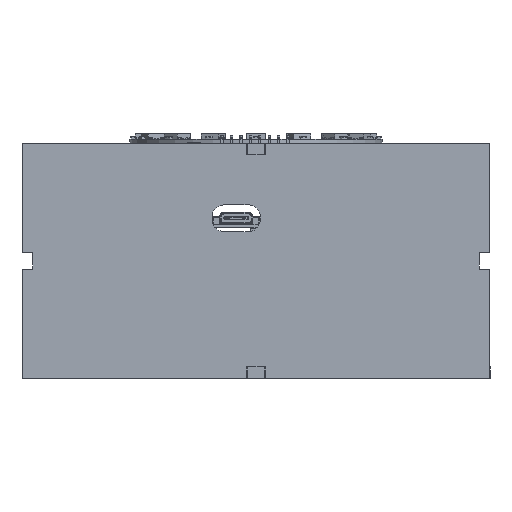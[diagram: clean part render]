
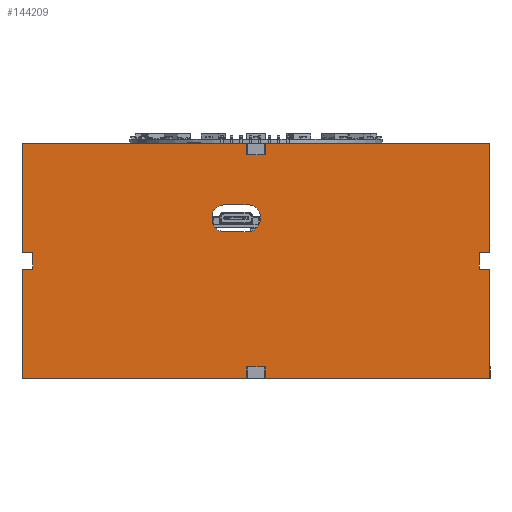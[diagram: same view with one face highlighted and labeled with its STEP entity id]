
A CAD part, left-side view. The second image highlights one B-rep face of the part: STEP entity #144209.
In plain terms, the highlighted planar face has unit normal (-1, 0, 0).
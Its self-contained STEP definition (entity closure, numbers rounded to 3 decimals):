
#7146=FACE_BOUND('',#26496,.T.);
#10637=PLANE('',#154101);
#18187=FACE_OUTER_BOUND('',#26495,.T.);
#26495=EDGE_LOOP('',(#118530,#118531,#118532,#118533,#118534,#118535,#118536,
#118537,#118538,#118539,#118540,#118541,#118542,#118543,#118544,#118545,
#118546,#118547,#118548,#118549));
#26496=EDGE_LOOP('',(#118550,#118551,#118552,#118553,#118554,#118555,#118556,
#118557));
#39323=LINE('',#226450,#54594);
#39327=LINE('',#226459,#54598);
#39329=LINE('',#226464,#54600);
#39334=LINE('',#226478,#54605);
#39338=LINE('',#226490,#54609);
#39342=LINE('',#226502,#54613);
#39347=LINE('',#226516,#54618);
#39350=LINE('',#226522,#54621);
#39353=LINE('',#226528,#54624);
#39356=LINE('',#226534,#54627);
#39359=LINE('',#226540,#54630);
#39362=LINE('',#226544,#54633);
#39363=LINE('',#226546,#54634);
#39366=LINE('',#226552,#54637);
#39369=LINE('',#226558,#54640);
#39372=LINE('',#226564,#54643);
#39375=LINE('',#226570,#54646);
#39378=LINE('',#226576,#54649);
#39381=LINE('',#226582,#54652);
#39384=LINE('',#226588,#54655);
#39387=LINE('',#226594,#54658);
#39390=LINE('',#226600,#54661);
#39393=LINE('',#226606,#54664);
#39396=LINE('',#226610,#54667);
#54594=VECTOR('',#176115,10.);
#54598=VECTOR('',#176121,10.);
#54600=VECTOR('',#176125,10.);
#54605=VECTOR('',#176138,10.);
#54609=VECTOR('',#176150,10.);
#54613=VECTOR('',#176162,10.);
#54618=VECTOR('',#176175,10.);
#54621=VECTOR('',#176180,10.);
#54624=VECTOR('',#176185,10.);
#54627=VECTOR('',#176190,10.);
#54630=VECTOR('',#176195,10.);
#54633=VECTOR('',#176200,10.);
#54634=VECTOR('',#176203,10.);
#54637=VECTOR('',#176208,10.);
#54640=VECTOR('',#176213,10.);
#54643=VECTOR('',#176218,10.);
#54646=VECTOR('',#176223,10.);
#54649=VECTOR('',#176228,10.);
#54652=VECTOR('',#176233,10.);
#54655=VECTOR('',#176238,10.);
#54658=VECTOR('',#176243,10.);
#54661=VECTOR('',#176248,10.);
#54664=VECTOR('',#176253,10.);
#54667=VECTOR('',#176258,10.);
#62422=CIRCLE('',#154069,3.25);
#62424=CIRCLE('',#154073,3.25);
#62426=CIRCLE('',#154077,3.25);
#62428=CIRCLE('',#154081,3.25);
#69878=VERTEX_POINT('',#226447);
#69879=VERTEX_POINT('',#226449);
#69882=VERTEX_POINT('',#226456);
#69883=VERTEX_POINT('',#226458);
#69884=VERTEX_POINT('',#226462);
#69885=VERTEX_POINT('',#226463);
#69888=VERTEX_POINT('',#226471);
#69890=VERTEX_POINT('',#226477);
#69892=VERTEX_POINT('',#226483);
#69894=VERTEX_POINT('',#226489);
#69896=VERTEX_POINT('',#226495);
#69898=VERTEX_POINT('',#226501);
#69902=VERTEX_POINT('',#226513);
#69903=VERTEX_POINT('',#226515);
#69905=VERTEX_POINT('',#226521);
#69907=VERTEX_POINT('',#226527);
#69909=VERTEX_POINT('',#226533);
#69911=VERTEX_POINT('',#226539);
#69913=VERTEX_POINT('',#226551);
#69915=VERTEX_POINT('',#226557);
#69917=VERTEX_POINT('',#226563);
#69919=VERTEX_POINT('',#226569);
#69921=VERTEX_POINT('',#226575);
#69923=VERTEX_POINT('',#226581);
#69925=VERTEX_POINT('',#226587);
#69927=VERTEX_POINT('',#226593);
#69929=VERTEX_POINT('',#226599);
#69931=VERTEX_POINT('',#226605);
#87217=EDGE_CURVE('',#69879,#69878,#39323,.T.);
#87221=EDGE_CURVE('',#69883,#69882,#39327,.T.);
#87223=EDGE_CURVE('',#69884,#69885,#39329,.T.);
#87227=EDGE_CURVE('',#69885,#69888,#62422,.T.);
#87230=EDGE_CURVE('',#69888,#69890,#39334,.T.);
#87233=EDGE_CURVE('',#69890,#69892,#62424,.T.);
#87236=EDGE_CURVE('',#69892,#69894,#39338,.T.);
#87239=EDGE_CURVE('',#69894,#69896,#62426,.T.);
#87242=EDGE_CURVE('',#69896,#69898,#39342,.T.);
#87245=EDGE_CURVE('',#69898,#69884,#62428,.T.);
#87249=EDGE_CURVE('',#69903,#69902,#39347,.T.);
#87252=EDGE_CURVE('',#69905,#69903,#39350,.T.);
#87255=EDGE_CURVE('',#69907,#69905,#39353,.T.);
#87258=EDGE_CURVE('',#69909,#69907,#39356,.T.);
#87261=EDGE_CURVE('',#69911,#69909,#39359,.T.);
#87264=EDGE_CURVE('',#69878,#69911,#39362,.T.);
#87265=EDGE_CURVE('',#69882,#69879,#39363,.T.);
#87268=EDGE_CURVE('',#69913,#69883,#39366,.T.);
#87271=EDGE_CURVE('',#69915,#69913,#39369,.T.);
#87274=EDGE_CURVE('',#69917,#69915,#39372,.T.);
#87277=EDGE_CURVE('',#69919,#69917,#39375,.T.);
#87280=EDGE_CURVE('',#69921,#69919,#39378,.T.);
#87283=EDGE_CURVE('',#69923,#69921,#39381,.T.);
#87286=EDGE_CURVE('',#69925,#69923,#39384,.T.);
#87289=EDGE_CURVE('',#69927,#69925,#39387,.T.);
#87292=EDGE_CURVE('',#69929,#69927,#39390,.T.);
#87295=EDGE_CURVE('',#69931,#69929,#39393,.T.);
#87298=EDGE_CURVE('',#69902,#69931,#39396,.T.);
#118530=ORIENTED_EDGE('',*,*,#87298,.T.);
#118531=ORIENTED_EDGE('',*,*,#87295,.T.);
#118532=ORIENTED_EDGE('',*,*,#87292,.T.);
#118533=ORIENTED_EDGE('',*,*,#87289,.T.);
#118534=ORIENTED_EDGE('',*,*,#87286,.T.);
#118535=ORIENTED_EDGE('',*,*,#87283,.T.);
#118536=ORIENTED_EDGE('',*,*,#87280,.T.);
#118537=ORIENTED_EDGE('',*,*,#87277,.T.);
#118538=ORIENTED_EDGE('',*,*,#87274,.T.);
#118539=ORIENTED_EDGE('',*,*,#87271,.T.);
#118540=ORIENTED_EDGE('',*,*,#87268,.T.);
#118541=ORIENTED_EDGE('',*,*,#87221,.T.);
#118542=ORIENTED_EDGE('',*,*,#87265,.T.);
#118543=ORIENTED_EDGE('',*,*,#87217,.T.);
#118544=ORIENTED_EDGE('',*,*,#87264,.T.);
#118545=ORIENTED_EDGE('',*,*,#87261,.T.);
#118546=ORIENTED_EDGE('',*,*,#87258,.T.);
#118547=ORIENTED_EDGE('',*,*,#87255,.T.);
#118548=ORIENTED_EDGE('',*,*,#87252,.T.);
#118549=ORIENTED_EDGE('',*,*,#87249,.T.);
#118550=ORIENTED_EDGE('',*,*,#87236,.T.);
#118551=ORIENTED_EDGE('',*,*,#87239,.T.);
#118552=ORIENTED_EDGE('',*,*,#87242,.T.);
#118553=ORIENTED_EDGE('',*,*,#87245,.T.);
#118554=ORIENTED_EDGE('',*,*,#87223,.T.);
#118555=ORIENTED_EDGE('',*,*,#87227,.T.);
#118556=ORIENTED_EDGE('',*,*,#87230,.T.);
#118557=ORIENTED_EDGE('',*,*,#87233,.T.);
#144209=ADVANCED_FACE('',(#18187,#7146),#10637,.T.);
#154069=AXIS2_PLACEMENT_3D('',#226472,#176131,#176132);
#154073=AXIS2_PLACEMENT_3D('',#226484,#176143,#176144);
#154077=AXIS2_PLACEMENT_3D('',#226496,#176155,#176156);
#154081=AXIS2_PLACEMENT_3D('',#226507,#176167,#176168);
#154101=AXIS2_PLACEMENT_3D('',#226611,#176259,#176260);
#176115=DIRECTION('',(0.,0.,1.));
#176121=DIRECTION('',(0.,0.,-1.));
#176125=DIRECTION('',(0.,0.,1.));
#176131=DIRECTION('center_axis',(1.,0.,0.));
#176132=DIRECTION('ref_axis',(0.,1.,0.));
#176138=DIRECTION('',(0.,-1.,0.));
#176143=DIRECTION('center_axis',(1.,0.,0.));
#176144=DIRECTION('ref_axis',(0.,0.,1.));
#176150=DIRECTION('',(0.,0.,-1.));
#176155=DIRECTION('center_axis',(1.,0.,0.));
#176156=DIRECTION('ref_axis',(0.,-1.,0.));
#176162=DIRECTION('',(0.,1.,0.));
#176167=DIRECTION('center_axis',(1.,0.,0.));
#176168=DIRECTION('ref_axis',(0.,0.,-1.));
#176175=DIRECTION('',(0.,0.,-1.));
#176180=DIRECTION('',(0.,1.,0.));
#176185=DIRECTION('',(0.,0.,-1.));
#176190=DIRECTION('',(0.,-1.,0.));
#176195=DIRECTION('',(0.,0.,-1.));
#176200=DIRECTION('',(0.,1.,0.));
#176203=DIRECTION('',(0.,1.,0.));
#176208=DIRECTION('',(0.,1.,0.));
#176213=DIRECTION('',(0.,0.,1.));
#176218=DIRECTION('',(0.,-1.,0.));
#176223=DIRECTION('',(0.,0.,1.));
#176228=DIRECTION('',(0.,1.,0.));
#176233=DIRECTION('',(0.,0.,1.));
#176238=DIRECTION('',(0.,-1.,0.));
#176243=DIRECTION('',(0.,0.,-1.));
#176248=DIRECTION('',(0.,-1.,0.));
#176253=DIRECTION('',(0.,0.,1.));
#176258=DIRECTION('',(0.,-1.,0.));
#176259=DIRECTION('center_axis',(-1.,0.,0.));
#176260=DIRECTION('ref_axis',(0.,0.,1.));
#226447=CARTESIAN_POINT('',(-83.,2.222,63.088));
#226449=CARTESIAN_POINT('',(-83.,2.222,60.088));
#226450=CARTESIAN_POINT('',(-83.,2.222,63.088));
#226456=CARTESIAN_POINT('',(-83.,-2.221,60.088));
#226458=CARTESIAN_POINT('',(-83.,-2.221,63.088));
#226459=CARTESIAN_POINT('',(-83.,-2.221,60.088));
#226462=CARTESIAN_POINT('',(-83.,11.806,42.636));
#226463=CARTESIAN_POINT('',(-83.,11.806,43.346));
#226464=CARTESIAN_POINT('',(-83.,11.806,37.445));
#226471=CARTESIAN_POINT('',(-83.,8.556,46.596));
#226472=CARTESIAN_POINT('Origin',(-83.,8.556,43.346));
#226477=CARTESIAN_POINT('',(-83.,2.116,46.596));
#226478=CARTESIAN_POINT('',(-83.,1.058,46.596));
#226483=CARTESIAN_POINT('',(-83.,-1.134,43.346));
#226484=CARTESIAN_POINT('Origin',(-83.,2.116,43.346));
#226489=CARTESIAN_POINT('',(-83.,-1.134,42.636));
#226490=CARTESIAN_POINT('',(-83.,-1.134,37.09));
#226495=CARTESIAN_POINT('',(-83.,2.116,39.386));
#226496=CARTESIAN_POINT('Origin',(-83.,2.116,42.636));
#226501=CARTESIAN_POINT('',(-83.,8.556,39.386));
#226502=CARTESIAN_POINT('',(-83.,4.278,39.386));
#226507=CARTESIAN_POINT('Origin',(-83.,8.556,42.636));
#226513=CARTESIAN_POINT('',(-83.,62.943,0.));
#226515=CARTESIAN_POINT('',(-83.,62.943,29.323));
#226516=CARTESIAN_POINT('',(-83.,62.943,0.));
#226521=CARTESIAN_POINT('',(-83.,60.,29.323));
#226522=CARTESIAN_POINT('',(-83.,60.,29.323));
#226527=CARTESIAN_POINT('',(-83.,60.,33.766));
#226528=CARTESIAN_POINT('',(-83.,60.,33.766));
#226533=CARTESIAN_POINT('',(-83.,62.943,33.766));
#226534=CARTESIAN_POINT('',(-83.,62.943,33.766));
#226539=CARTESIAN_POINT('',(-83.,62.943,63.088));
#226540=CARTESIAN_POINT('',(-83.,62.943,0.));
#226544=CARTESIAN_POINT('',(-83.,62.943,63.088));
#226546=CARTESIAN_POINT('',(-83.,-2.472,60.088));
#226551=CARTESIAN_POINT('',(-83.,-62.943,63.088));
#226552=CARTESIAN_POINT('',(-83.,62.943,63.088));
#226557=CARTESIAN_POINT('',(-83.,-62.943,33.766));
#226558=CARTESIAN_POINT('',(-83.,-62.943,63.088));
#226563=CARTESIAN_POINT('',(-83.,-60.,33.766));
#226564=CARTESIAN_POINT('',(-83.,-62.943,33.766));
#226569=CARTESIAN_POINT('',(-83.,-60.,29.323));
#226570=CARTESIAN_POINT('',(-83.,-60.,33.766));
#226575=CARTESIAN_POINT('',(-83.,-62.943,29.323));
#226576=CARTESIAN_POINT('',(-83.,-60.,29.323));
#226581=CARTESIAN_POINT('',(-83.,-62.943,0.));
#226582=CARTESIAN_POINT('',(-83.,-62.943,63.088));
#226587=CARTESIAN_POINT('',(-83.,-2.222,0.));
#226588=CARTESIAN_POINT('',(-83.,2.472,0.));
#226593=CARTESIAN_POINT('',(-83.,-2.222,3.));
#226594=CARTESIAN_POINT('',(-83.,-2.222,3.));
#226599=CARTESIAN_POINT('',(-83.,2.222,3.));
#226600=CARTESIAN_POINT('',(-83.,2.222,3.));
#226605=CARTESIAN_POINT('',(-83.,2.222,0.));
#226606=CARTESIAN_POINT('',(-83.,2.222,0.));
#226610=CARTESIAN_POINT('',(-83.,2.472,0.));
#226611=CARTESIAN_POINT('Origin',(-83.,0.,31.544));
